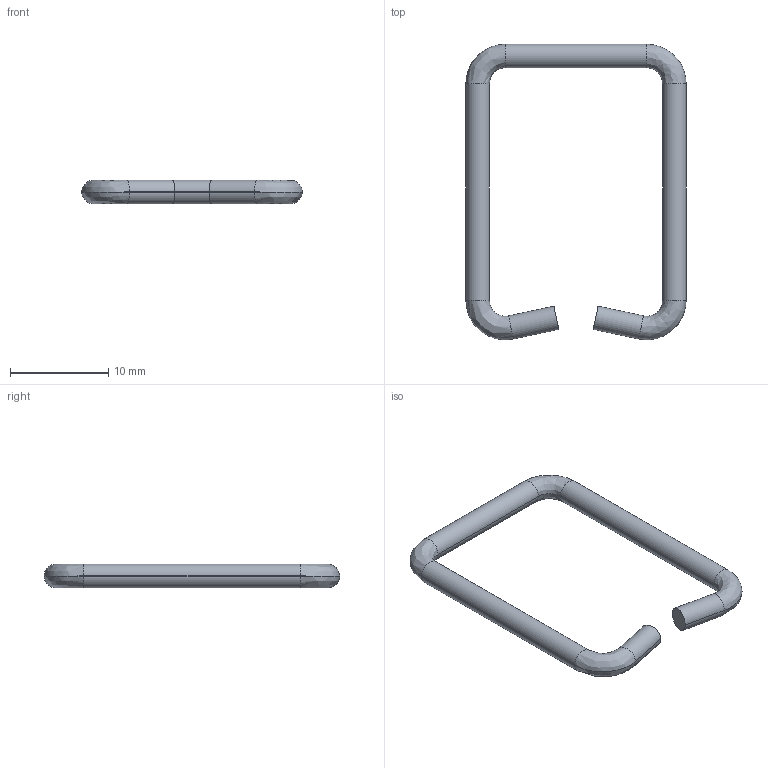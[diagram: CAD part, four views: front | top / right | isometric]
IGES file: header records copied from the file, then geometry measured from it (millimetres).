
Start section: SolidWorks IGES FILE using analytic representation for surfaces
Global section: file name: C:\Documents and Settings\brechard\Bureau\GO 6\6.200.10.IGS; native system: SolidWorks 2001Plus by SolidWorks Corporation; preprocessor: Version 5.3; author: brechard; date: 050126.141613; units: millimetre
Bounding box: 22.4 x 30.06 x 2.4 mm (x, y, z)
Surface area: 663 mm2 (no closed solid volume)
Topology: 0 solids, 0 shells, 20 faces, 136 edges, 136 vertices
Faces by surface type: bspline 10, revolution 10
